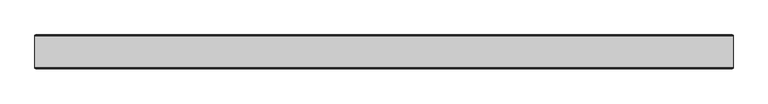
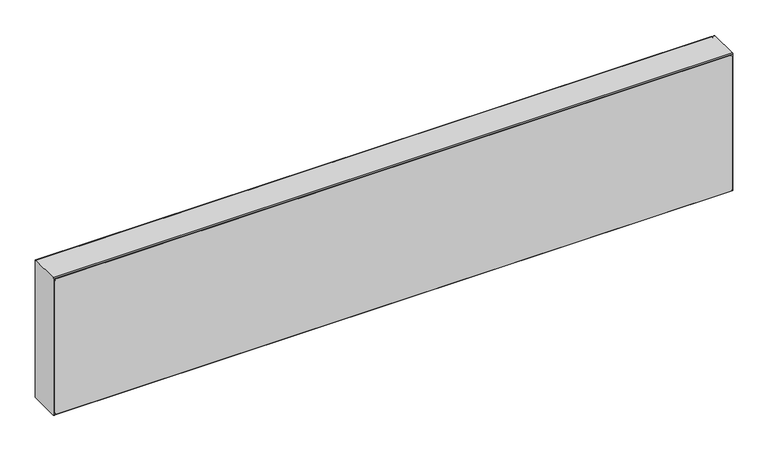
"""IFC4 building model written with IfcOpenShell, lengths in millimetres: proxy geometry, EVRA CV Д : 21-300-1400."""

from ifc_helpers import new_model, si_unit, point, frame, frame_2d, origin, place, context, project, spatial, polyline, circle_curve, trimmed, segment, composite_curve, outline, extrude, source, transform, mapped, element, save


def mechanical_equipment_c68842d5(model_context):
    return source(origin(), model_context, "Body", "SweptSolid", [
        extrude(outline(composite_curve([segment(polyline([(398.0, 893.0), (398.0, -493.0)]), True, "CONTINUOUS"), segment(trimmed(circle_curve(frame_2d((393.0, -493.0)), 5.0), [point((398.0, -493.0))], [point((393.0, -498.0))], False, "CARTESIAN"), True, "CONTINUOUS"), segment(polyline([(393.0, -498.0), (107.0, -498.0)]), True, "CONTINUOUS"), segment(trimmed(circle_curve(frame_2d((107.0, -493.0)), 5.0), [point((107.0, -498.0))], [point((102.0, -493.0))], False, "CARTESIAN"), True, "CONTINUOUS"), segment(polyline([(102.0, -493.0), (102.0, 893.0)]), True, "CONTINUOUS"), segment(trimmed(circle_curve(frame_2d((107.0, 893.0)), 5.0), [point((102.0, 893.0))], [point((107.0, 898.0))], False, "CARTESIAN"), True, "CONTINUOUS"), segment(polyline([(107.0, 898.0), (393.0, 898.0)]), True, "CONTINUOUS"), segment(trimmed(circle_curve(frame_2d((393.0, 893.0)), 5.0), [point((393.0, 898.0))], [point((398.0, 893.0))], False, "CARTESIAN"), True, "CONTINUOUS")], self_intersect=False)), frame((0.0, 11.4631102, 0.0), z_axis=(0.0, 1.0, 0.0), x_axis=(0.0, 0.0, 1.0)), (0.0, 0.0, 1.0), 1.0),
        extrude(outline(composite_curve([segment(polyline([(398.0, 893.0), (398.0, -493.0)]), True, "CONTINUOUS"), segment(trimmed(circle_curve(frame_2d((393.0, -493.0)), 5.0), [point((398.0, -493.0))], [point((393.0, -498.0))], False, "CARTESIAN"), True, "CONTINUOUS"), segment(polyline([(393.0, -498.0), (107.0, -498.0)]), True, "CONTINUOUS"), segment(trimmed(circle_curve(frame_2d((107.0, -493.0)), 5.0), [point((107.0, -498.0))], [point((102.0, -493.0))], False, "CARTESIAN"), True, "CONTINUOUS"), segment(polyline([(102.0, -493.0), (102.0, 893.0)]), True, "CONTINUOUS"), segment(trimmed(circle_curve(frame_2d((107.0, 893.0)), 5.0), [point((102.0, 893.0))], [point((107.0, 898.0))], False, "CARTESIAN"), True, "CONTINUOUS"), segment(polyline([(107.0, 898.0), (393.0, 898.0)]), True, "CONTINUOUS"), segment(trimmed(circle_curve(frame_2d((393.0, 893.0)), 5.0), [point((393.0, 898.0))], [point((398.0, 893.0))], False, "CARTESIAN"), True, "CONTINUOUS")], self_intersect=False)), frame((0.0, -55.5368898, 0.0), z_axis=(0.0, 1.0, 0.0), x_axis=(0.0, 0.0, 1.0)), (0.0, 0.0, 1.0), 1.0),
        extrude(outline(composite_curve([segment(trimmed(circle_curve(frame_2d((9.4631102, 398.0)), 2.0), [point((9.4631102, 400.0))], [point((11.4631102, 398.0))], False, "CARTESIAN"), True, "CONTINUOUS"), segment(polyline([(11.4631102, 398.0), (11.4631102, 102.0)]), True, "CONTINUOUS"), segment(trimmed(circle_curve(frame_2d((9.4631102, 102.0)), 2.0), [point((11.4631102, 102.0))], [point((9.4631102, 100.0))], False, "CARTESIAN"), True, "CONTINUOUS"), segment(polyline([(9.4631102, 100.0), (-52.5368898, 100.0)]), True, "CONTINUOUS"), segment(trimmed(circle_curve(frame_2d((-52.5368898, 102.0)), 2.0), [point((-52.5368898, 100.0))], [point((-54.5368898, 102.0))], False, "CARTESIAN"), True, "CONTINUOUS"), segment(polyline([(-54.5368898, 102.0), (-54.5368898, 398.0)]), True, "CONTINUOUS"), segment(trimmed(circle_curve(frame_2d((-52.5368898, 398.0)), 2.0), [point((-54.5368898, 398.0))], [point((-52.5368898, 400.0))], False, "CARTESIAN"), True, "CONTINUOUS"), segment(polyline([(-52.5368898, 400.0), (9.4631102, 400.0)]), True, "CONTINUOUS")], self_intersect=False)), frame((-500.0, 0.0, 0.0), z_axis=(1.0, 0.0, 0.0), x_axis=(0.0, 1.0, 0.0)), (0.0, 0.0, 1.0), 1400.0),
    ])


if __name__ == "__main__":
    model = new_model("IFC4")
    model_context = context("Model", 3, world=origin())
    ifc_project = project(units=[si_unit("LENGTHUNIT", "METRE", prefix="MILLI")], contexts=[model_context])
    site = spatial("IfcSite", under=ifc_project)
    building = spatial("IfcBuilding", under=site)
    placement = place(None, origin())
    mechanical_equipment_shape = mechanical_equipment_c68842d5(model_context)
    element("IfcBuildingElementProxy", 1, Name="EVRA CV Д : 21-300-1400", ObjectType="EVRA CV Д : 21-300-1400", at=placement, inside=building, context=model_context, shape_type="MappedRepresentation", body=[
        mapped(mechanical_equipment_shape, transform((0.0, 0.0, 0.0), x_axis=(1.0, 0.0, 0.0), y_axis=(0.0, 1.0, 0.0), z_axis=(0.0, 0.0, 1.0))),
    ])
    save(model, "model.ifc")
